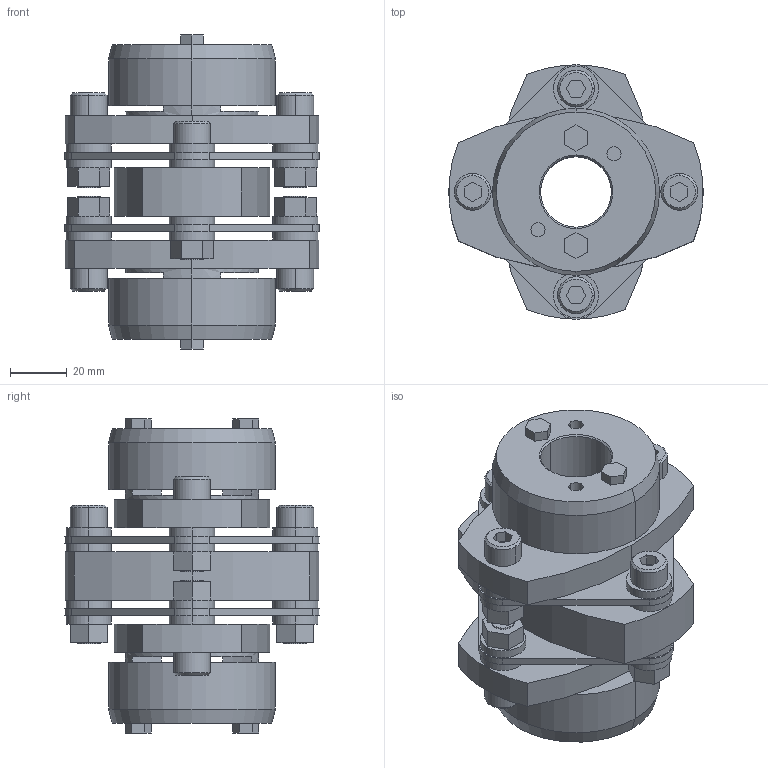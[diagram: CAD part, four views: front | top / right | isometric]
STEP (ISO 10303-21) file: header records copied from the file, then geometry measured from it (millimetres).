
FILE_DESCRIPTION((''),'2;1');
FILE_NAME('LCD-90T7-25×25.stp','2011-09-12T09:52:30',(''),(''),'AutoCAD STEP 2000i','AutoCAD 2000i',', , ');
FILE_SCHEMA(('CONFIG_CONTROL_DESIGN'));
Length unit declared in the file: millimetre
Products named in the file (7): LCD-90T7-25×25; 忣兜1; LC90T7-T025-1; LC90T7-T025; LC90T7-T019-1; LC90T7-T019; LCD90-ITA
Assembly tree (6 placements, depth 2):
  LCD-90T7-25×25
    忣兜1
    LC90T7-T025-1
    LC90T7-T025
    LC90T7-T019-1
    LC90T7-T019
    LCD90-ITA
Bounding box: 90 x 89.94 x 111 mm (x, y, z)
Volume: 266284.5 mm3; surface area: 73206.8 mm2
Topology: 1 solids, 1 shells, 306 faces, 744 edges, 488 vertices
Faces by surface type: plane 162, cylinder 120, cone 24
Entity records: 9247 total; most frequent: DIRECTION 1650, CARTESIAN_POINT 1545, ORIENTED_EDGE 1488, EDGE_CURVE 744, AXIS2_PLACEMENT_3D 593, VERTEX_POINT 488, VECTOR 464, LINE 464
